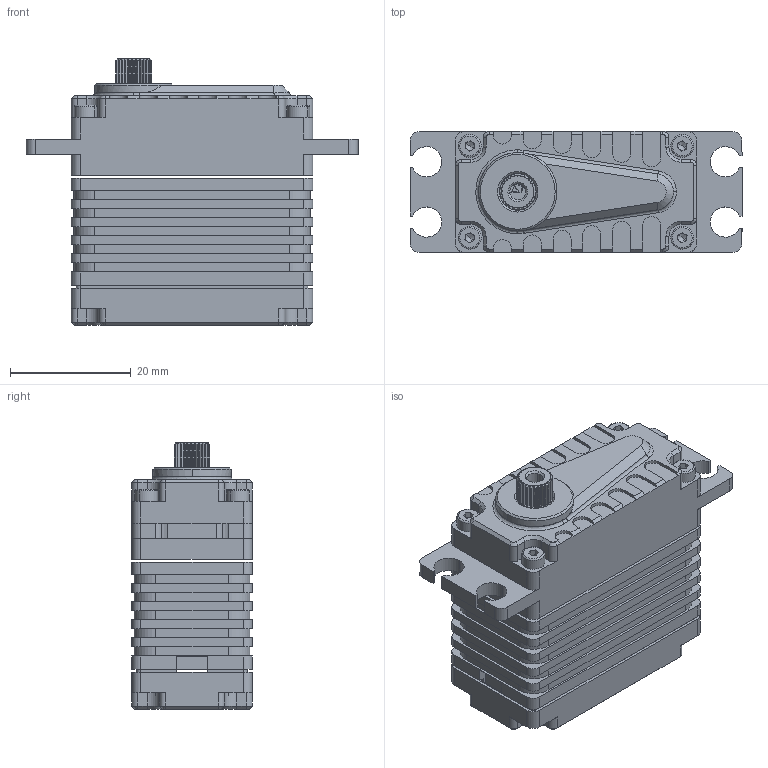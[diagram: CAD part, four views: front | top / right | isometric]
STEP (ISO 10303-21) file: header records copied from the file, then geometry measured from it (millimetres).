
FILE_DESCRIPTION (( 'STEP AP214' ), '1' );
FILE_NAME ('SV8510_DM_20230113.STEP', '2023-01-14T03:11:34', ( '微软用户' ), ( '微软中国' ), 'SwSTEP 2.0', 'SolidWorks 2016', '' );
FILE_SCHEMA (( 'AUTOMOTIVE_DESIGN' ));
Length unit declared in the file: millimetre
Products named in the file (1): SV8510_DM_20230113
Bounding box: 55 x 20 x 44.1 mm (x, y, z)
Surface area: 8874.6 mm2 (no closed solid volume)
Topology: 0 solids, 16 shells, 551 faces, 1669 edges, 1131 vertices
Faces by surface type: plane 283, cylinder 190, cone 65, torus 8, bspline 5
Entity records: 25143 total; most frequent: CARTESIAN_POINT 3862, DIRECTION 3233, ORIENTED_EDGE 3064, EDGE_CURVE 1661, VERTEX_POINT 1131, AXIS2_PLACEMENT_3D 1094, LINE 1045, VECTOR 1045
